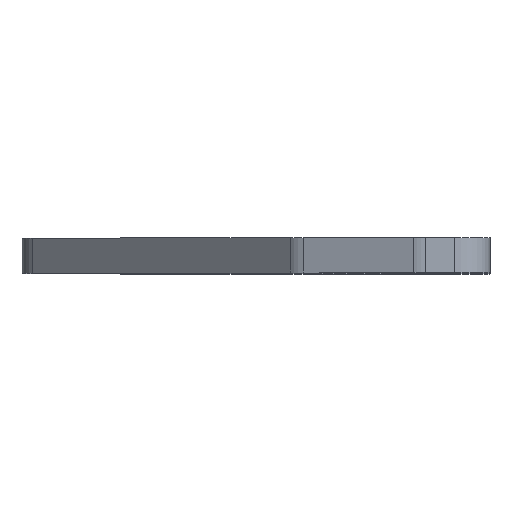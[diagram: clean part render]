
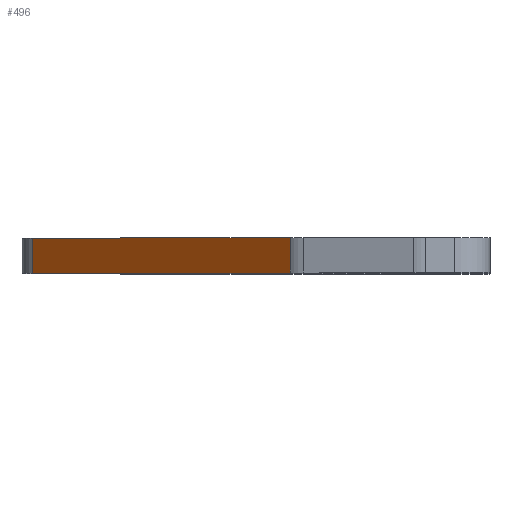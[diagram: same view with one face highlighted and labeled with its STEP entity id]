
A CAD part, top view. The second image highlights one B-rep face of the part: STEP entity #496.
In plain terms, the highlighted planar face has unit normal (-0.707, 0, 0.707).
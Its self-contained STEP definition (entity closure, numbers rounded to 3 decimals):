
#103 = LINE ( 'NONE', #1041, #107 ) ;
#107 = VECTOR ( 'NONE', #379, 1000. ) ;
#122 = DIRECTION ( 'NONE',  ( -0.707, 0., -0.707 ) ) ;
#158 = CARTESIAN_POINT ( 'NONE',  ( 7.686, 2., 20.639 ) ) ;
#180 = LINE ( 'NONE', #935, #823 ) ;
#239 = VERTEX_POINT ( 'NONE', #667 ) ;
#251 = LINE ( 'NONE', #729, #635 ) ;
#278 = EDGE_CURVE ( 'NONE', #1047, #746, #180, .T. ) ;
#292 = CARTESIAN_POINT ( 'NONE',  ( -6.914, 2., 6.038 ) ) ;
#297 = CARTESIAN_POINT ( 'NONE',  ( 7.686, 2., 20.639 ) ) ;
#333 = ORIENTED_EDGE ( 'NONE', *, *, #608, .T. ) ;
#349 = DIRECTION ( 'NONE',  ( 0., -1., 0. ) ) ;
#364 = FACE_OUTER_BOUND ( 'NONE', #686, .T. ) ;
#369 = LINE ( 'NONE', #292, #621 ) ;
#376 = CARTESIAN_POINT ( 'NONE',  ( 7.686, 0., 20.639 ) ) ;
#379 = DIRECTION ( 'NONE',  ( 0.707, 0., 0.707 ) ) ;
#421 = EDGE_CURVE ( 'NONE', #577, #239, #369, .T. ) ;
#435 = EDGE_CURVE ( 'NONE', #577, #1047, #103, .T. ) ;
#496 = ADVANCED_FACE ( 'NONE', ( #364 ), #1071, .F. ) ;
#577 = VERTEX_POINT ( 'NONE', #1065 ) ;
#608 = EDGE_CURVE ( 'NONE', #239, #746, #251, .T. ) ;
#621 = VECTOR ( 'NONE', #809, 1000. ) ;
#635 = VECTOR ( 'NONE', #1061, 1000. ) ;
#667 = CARTESIAN_POINT ( 'NONE',  ( -6.914, 0., 6.038 ) ) ;
#674 = ORIENTED_EDGE ( 'NONE', *, *, #421, .T. ) ;
#686 = EDGE_LOOP ( 'NONE', ( #333, #1040, #1002, #674 ) ) ;
#729 = CARTESIAN_POINT ( 'NONE',  ( 7.686, 0., 20.639 ) ) ;
#746 = VERTEX_POINT ( 'NONE', #376 ) ;
#809 = DIRECTION ( 'NONE',  ( 0., -1., 0. ) ) ;
#817 = DIRECTION ( 'NONE',  ( 0.707, 0., -0.707 ) ) ;
#823 = VECTOR ( 'NONE', #349, 1000. ) ;
#935 = CARTESIAN_POINT ( 'NONE',  ( 7.686, 2., 20.639 ) ) ;
#949 = AXIS2_PLACEMENT_3D ( 'NONE', #297, #817, #122 ) ;
#1002 = ORIENTED_EDGE ( 'NONE', *, *, #435, .F. ) ;
#1040 = ORIENTED_EDGE ( 'NONE', *, *, #278, .F. ) ;
#1041 = CARTESIAN_POINT ( 'NONE',  ( 7.686, 2., 20.639 ) ) ;
#1047 = VERTEX_POINT ( 'NONE', #158 ) ;
#1061 = DIRECTION ( 'NONE',  ( 0.707, 0., 0.707 ) ) ;
#1065 = CARTESIAN_POINT ( 'NONE',  ( -6.914, 2., 6.038 ) ) ;
#1071 = PLANE ( 'NONE',  #949 ) ;
